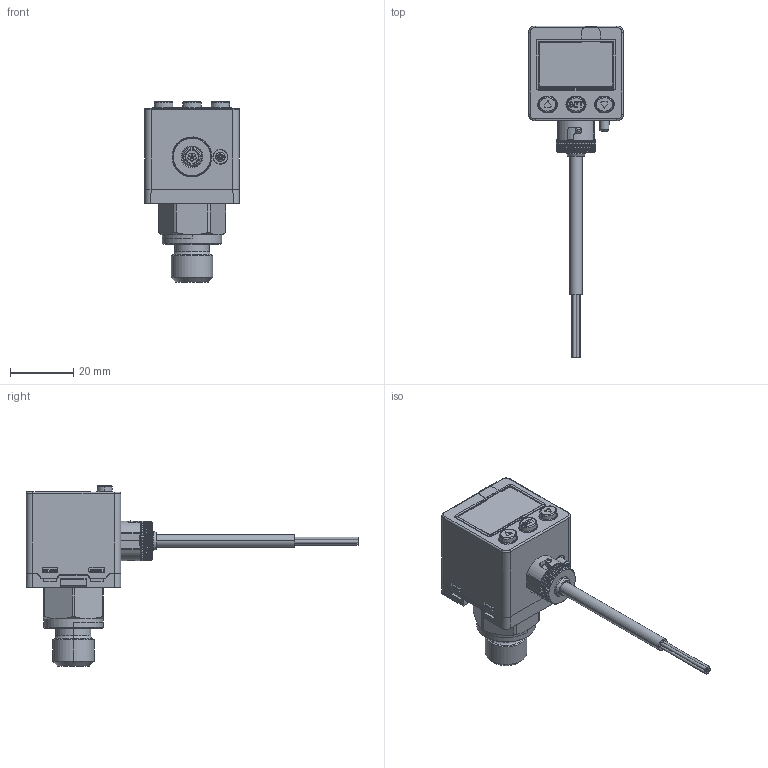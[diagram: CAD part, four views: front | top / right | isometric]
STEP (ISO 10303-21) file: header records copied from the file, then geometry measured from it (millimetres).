
FILE_DESCRIPTION((''),'2;1');
FILE_NAME('KP50_F3','2019-07-08T',('Stark'),(''),'CREO PARAMETRIC BY PTC INC, 2014500','CREO PARAMETRIC BY PTC INC, 2014500','');
FILE_SCHEMA(('CONFIG_CONTROL_DESIGN'));
Length unit declared in the file: millimetre
Products named in the file (1): KP50_F3
Bounding box: 30.08 x 105.34 x 57.2 mm (x, y, z)
Volume: 31767.1 mm3; surface area: 12218 mm2
Topology: 1 solids, 1 shells, 1059 faces, 2859 edges, 1840 vertices
Faces by surface type: plane 429, cylinder 304, cone 200, bspline 82, torus 34, extrusion 6, sphere 4
Entity records: 40676 total; most frequent: CARTESIAN_POINT 15669, ORIENTED_EDGE 5714, DIRECTION 4464, EDGE_CURVE 2857, VERTEX_POINT 1840, AXIS2_PLACEMENT_3D 1581, VECTOR 1302, LINE 1296
